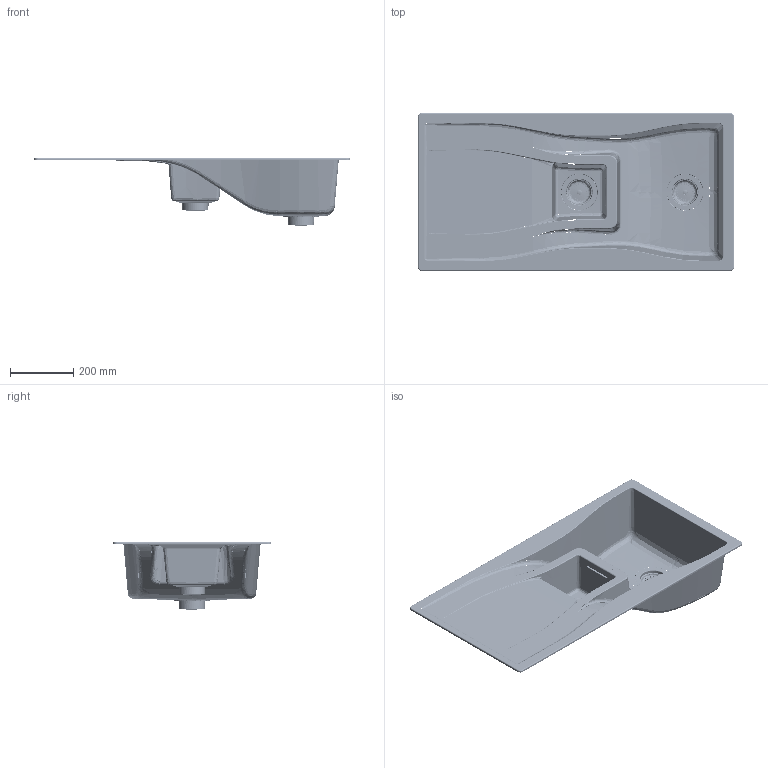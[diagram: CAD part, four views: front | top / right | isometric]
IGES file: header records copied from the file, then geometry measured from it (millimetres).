
Global section: file name: /Volumes/__KUNDEN/____01_SCHOCK/____projekte_schock/__RENDERINGS/__SPUELEN/02_3D Daten/02_PERSPEKTIVEN/Rhino/_SPU; native system: Rhinoceros ( Aug 27 2014 ); preprocessor: Trout Lake IGES 012 Aug 27 2014; date: 141028.142335; units: millimetre
Bounding box: 1000 x 500 x 215.57 mm (x, y, z)
Surface area: 926044.4 mm2 (no closed solid volume)
Topology: 0 solids, 0 shells, 773 faces, 81988 edges, 81964 vertices
Faces by surface type: bspline 773
